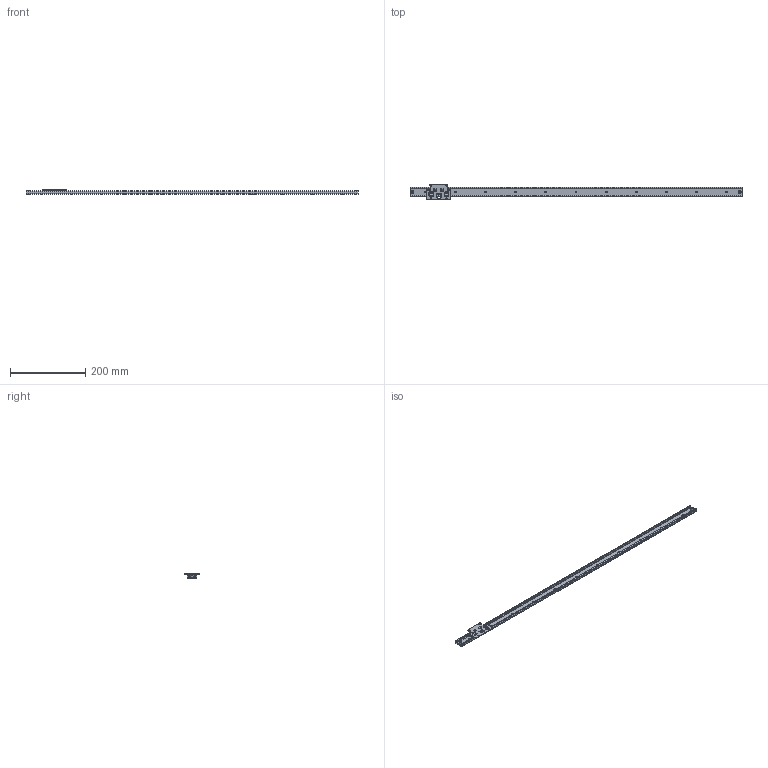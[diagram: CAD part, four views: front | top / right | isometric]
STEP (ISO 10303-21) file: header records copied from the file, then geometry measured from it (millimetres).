
FILE_DESCRIPTION((''),'1');
FILE_NAME('C:/Users/t-inoue/Desktop/25SW0880SS hp.stp','2016-07-29T02:42:07',(''),(''),'Spatial Interop R21 SP3','Kubotek KeyCreator 2011 V10.0.2 (22737)',' ');
FILE_SCHEMA(('automotive_design'));
Length unit declared in the file: millimetre
Products named in the file (450): Unnamed[1]
Bounding box: 880 x 42 x 12 mm (x, y, z)
Surface area: 80951.1 mm2 (no closed solid volume)
Topology: 0 solids, 450 shells, 450 faces, 1958 edges, 1801 vertices
Faces by surface type: plane 196, cylinder 140, cone 105, torus 8, sphere 1
Full cylindrical faces by diameter (mm): 1.6 x1, 3.2 x6, 3.3 x4, 3.5 x1, 4 x10, 5 x6, 5.5 x4, 5.6 x2, 7 x6, 8.2 x2
Entity records: 38810 total; most frequent: CARTESIAN_POINT 4712, DIRECTION 4433, PRESENTATION_STYLE_ASSIGNMENT 1800, COLOUR_RGB 1800, ORIENTED_EDGE 1774, EDGE_CURVE 1774, VERTEX_POINT 1774, AXIS2_PLACEMENT_3D 1767
